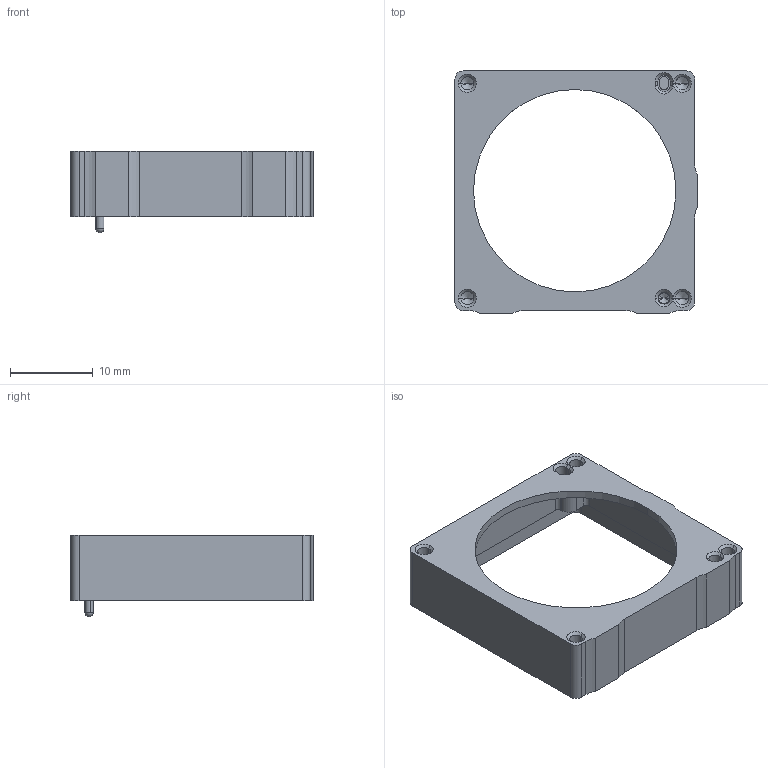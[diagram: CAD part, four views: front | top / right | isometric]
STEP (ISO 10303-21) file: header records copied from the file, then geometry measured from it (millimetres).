
FILE_DESCRIPTION (( 'STEP AP214' ), '1' );
FILE_NAME ('19210-01_Alvium Alignment Frame.STEP', '2022-12-08T08:17:14', ( '' ), ( '' ), 'SwSTEP 2.0', 'SolidWorks 2021', '' );
FILE_SCHEMA (( 'AUTOMOTIVE_DESIGN' ));
Length unit declared in the file: millimetre
Products named in the file (3): 19210-01_Alvium Alignment Frame; Vogt_1364u.68
Assembly tree (2 placements, depth 2):
  19210-01_Alvium Alignment Frame
    19210-01_Alvium Alignment Frame
    Vogt_1364u.68
Bounding box: 29.3 x 29.3 x 9.85 mm (x, y, z)
Volume: 1471.7 mm3; surface area: 2592.2 mm2
Topology: 2 solids, 2 shells, 128 faces, 319 edges, 197 vertices
Faces by surface type: cylinder 52, plane 51, cone 24, sphere 1
Entity records: 3956 total; most frequent: DIRECTION 688, CARTESIAN_POINT 634, ORIENTED_EDGE 612, EDGE_CURVE 306, AXIS2_PLACEMENT_3D 249, VERTEX_POINT 195, LINE 190, VECTOR 190
